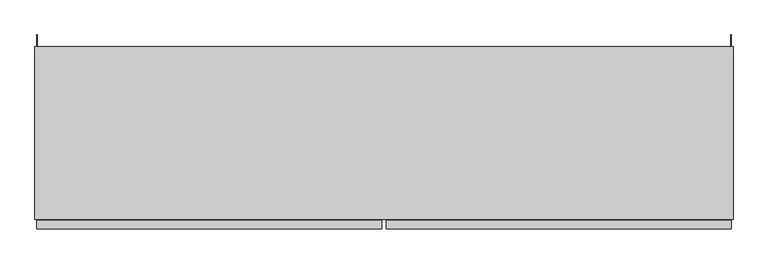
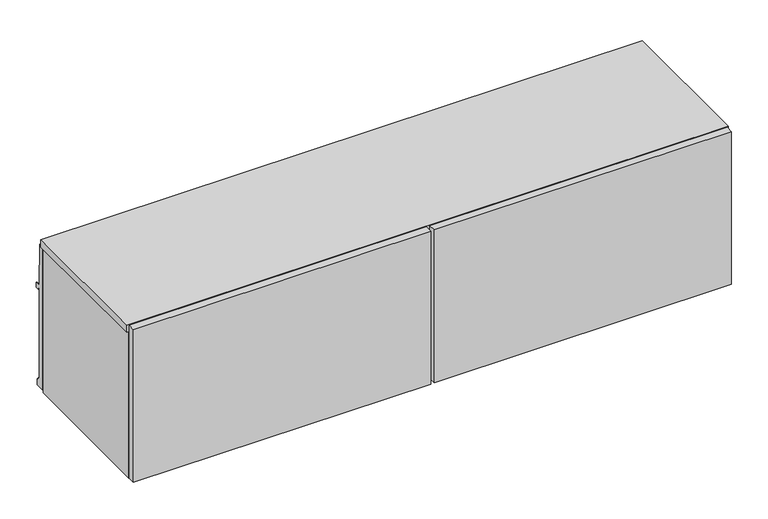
"""IFC4 building model written with IfcOpenShell, lengths in millimetres: furniture geometry, Steelcase - Universal Storage - Over the Case Bin - Flat Front : For Montage - 60W."""

from ifc_helpers import new_model, si_unit, frame, origin, place, context, project, spatial, polyline, outline, extrude, source, transform, mapped, element, save


def furniture_5c09c611(model_context):
    return source(origin(), model_context, "Body", "SweptSolid", [
        extrude(outline(polyline([(766.572, -379.476), (1519.5703, -379.476), (1519.5703, -398.526), (766.572, -398.526), (766.572, -379.476)])), frame((0.0, 0.0, 1266.8226746), z_axis=(0.0, 0.0, 1.0), x_axis=(1.0, 0.0, 0.0)), (0.0, 0.0, 1.0), 409.5773254),
        extrude(outline(polyline([(4.4448587, -379.476), (757.428, -379.476), (757.428, -398.526), (4.4448587, -398.526), (4.4448587, -379.476)])), frame((0.0, 0.0, 1266.8226746), z_axis=(0.0, 0.0, 1.0), x_axis=(1.0, 0.0, 0.0)), (0.0, 0.0, 1.0), 409.5773254),
        extrude(outline(polyline([(0.0, 1657.096), (10.1677703, 1657.096), (13.3857995, 1545.8185744), (26.0095997, 1545.8185744), (26.0095997, 1532.1025512), (17.5768, 1532.1025512), (17.5768, 1537.1064608), (13.3349998, 1537.1064608), (13.3349998, 1522.6538546), (14.2747998, 1522.6538546), (14.2747998, 1296.0858527), (17.2466001, 1296.0858527), (17.2466001, 1289.7358043), (22.5806007, 1289.7358043), (22.5806007, 1274.2164027), (0.0, 1274.2164027), (0.0, 1657.096)])), frame((1518.4882, 0.0, 0.0), z_axis=(1.0, 0.0, 0.0), x_axis=(0.0, 1.0, 0.0)), (0.0, 0.0, 1.0), 1.905),
        extrude(outline(polyline([(1524.0, -377.213238), (0.0, -377.213238), (0.0, 0.0), (1524.0, 0.0), (1524.0, -377.213238)])), frame((0.0, 0.0, 1657.35), z_axis=(0.0, 0.0, 1.0), x_axis=(1.0, 0.0, 0.0)), (0.0, 0.0, 1.0), 19.05),
        extrude(outline(polyline([(15.875, -377.213238), (5.5118, -377.213238), (5.5118, 0.0), (15.875, 0.0), (15.875, -377.213238)])), frame((0.0, 0.0, 1265.428), z_axis=(0.0, 0.0, 1.0), x_axis=(1.0, 0.0, 0.0)), (0.0, 0.0, 1.0), 391.6679457),
        extrude(outline(polyline([(1522.8568665, -377.213238), (1508.125, -377.213238), (1508.125, 0.0), (1522.8568665, 0.0), (1522.8568665, -377.213238)])), frame((0.0, 0.0, 1265.428), z_axis=(0.0, 0.0, 1.0), x_axis=(1.0, 0.0, 0.0)), (0.0, 0.0, 1.0), 391.6679457),
        extrude(outline(polyline([(0.0, 1657.096), (10.1677703, 1657.096), (13.3857995, 1545.8185744), (26.0095997, 1545.8185744), (26.0095997, 1532.1025512), (17.5768, 1532.1025512), (17.5768, 1537.1064608), (13.3349998, 1537.1064608), (13.3349998, 1522.6538546), (14.2747998, 1522.6538546), (14.2747998, 1296.0858527), (17.2466001, 1296.0858527), (17.2466001, 1289.7358043), (22.5806007, 1289.7358043), (22.5806007, 1274.2164027), (0.0, 1274.2164027), (0.0, 1657.096)])), frame((3.6068, 0.0, 0.0), z_axis=(1.0, 0.0, 0.0), x_axis=(0.0, 1.0, 0.0)), (0.0, 0.0, 1.0), 1.905),
        extrude(outline(polyline([(-35.4584098, 1372.819257), (-27.0763996, 1372.819257), (-27.0763996, 1360.1191601), (-33.4264117, 1360.1191601), (-33.4264117, 1323.1622589), (-27.0763996, 1323.1622589), (-27.0763996, 1265.428), (-35.4584098, 1265.428), (-35.4584098, 1293.054213), (-46.1263996, 1293.054213), (-46.1263996, 1268.1875622), (-59.9694137, 1268.1875622), (-59.9694137, 1294.8575912), (-332.8542818, 1294.8575912), (-332.8542818, 1268.1875622), (-377.3042823, 1268.1875622), (-377.3042823, 1310.7072052), (-35.4584098, 1310.7072052), (-35.4584098, 1372.819257)])), frame((15.875, 0.0, 0.0), z_axis=(1.0, 0.0, 0.0), x_axis=(0.0, 1.0, 0.0)), (0.0, 0.0, 1.0), 1492.25),
    ])


if __name__ == "__main__":
    model = new_model("IFC4")
    model_context = context("Model", 3, world=origin())
    ifc_project = project(units=[si_unit("LENGTHUNIT", "METRE", prefix="MILLI")], contexts=[model_context])
    site = spatial("IfcSite", under=ifc_project)
    building = spatial("IfcBuilding", under=site)
    placement = place(None, origin())
    furniture_shape = furniture_5c09c611(model_context)
    element("IfcFurniture", 1, ObjectType="Steelcase - Universal Storage - Over the Case Bin - Flat Front : For Montage - 60W", at=placement, inside=building, context=model_context, shape_type="MappedRepresentation", body=[
        mapped(furniture_shape, transform((0.0, 0.0, 0.0), x_axis=(1.0, 0.0, 0.0), y_axis=(0.0, 1.0, 0.0), z_axis=(0.0, 0.0, 1.0))),
    ])
    save(model, "model.ifc")
